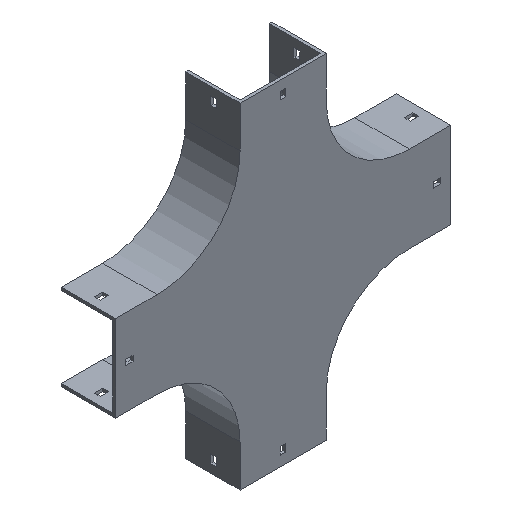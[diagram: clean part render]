
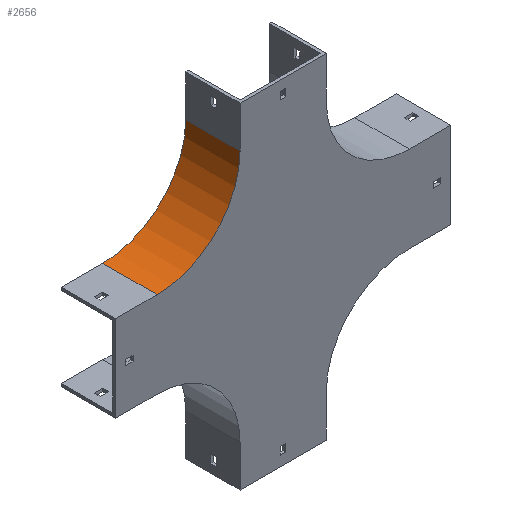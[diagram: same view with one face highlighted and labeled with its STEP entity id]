
A CAD part, isometric view. The second image highlights one B-rep face of the part: STEP entity #2656.
In plain terms, the highlighted cylindrical face has radius 100 mm (diameter 200 mm), a partial arc.
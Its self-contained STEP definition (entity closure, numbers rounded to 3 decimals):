
#80 = DIRECTION ( 'NONE',  ( 0., -1., 0. ) ) ;
#109 = EDGE_CURVE ( 'NONE', #1404, #2427, #1007, .T. ) ;
#209 = CIRCLE ( 'NONE', #1920, 100. ) ;
#226 = CARTESIAN_POINT ( 'NONE',  ( -204., 0., 0. ) ) ;
#247 = ORIENTED_EDGE ( 'NONE', *, *, #109, .T. ) ;
#267 = CARTESIAN_POINT ( 'NONE',  ( -204., 65.5, 0. ) ) ;
#588 = VERTEX_POINT ( 'NONE', #1965 ) ;
#594 = CARTESIAN_POINT ( 'NONE',  ( -304., 65.5, -100. ) ) ;
#595 = EDGE_CURVE ( 'NONE', #588, #2560, #1976, .T. ) ;
#722 = CARTESIAN_POINT ( 'NONE',  ( -304., 65.5, -100. ) ) ;
#779 = DIRECTION ( 'NONE',  ( 0., 0., 1. ) ) ;
#798 = EDGE_CURVE ( 'NONE', #1404, #588, #1174, .T. ) ;
#898 = DIRECTION ( 'NONE',  ( 0., -1., 0. ) ) ;
#1007 = LINE ( 'NONE', #594, #1350 ) ;
#1063 = ORIENTED_EDGE ( 'NONE', *, *, #798, .F. ) ;
#1102 = CARTESIAN_POINT ( 'NONE',  ( -304., 65.5, 0. ) ) ;
#1135 = FACE_OUTER_BOUND ( 'NONE', #2618, .T. ) ;
#1174 = CIRCLE ( 'NONE', #2433, 100. ) ;
#1202 = DIRECTION ( 'NONE',  ( 0., -1., 0. ) ) ;
#1272 = ORIENTED_EDGE ( 'NONE', *, *, #2377, .T. ) ;
#1306 = ORIENTED_EDGE ( 'NONE', *, *, #595, .F. ) ;
#1334 = CYLINDRICAL_SURFACE ( 'NONE', #2367, 100. ) ;
#1350 = VECTOR ( 'NONE', #2302, 1000. ) ;
#1404 = VERTEX_POINT ( 'NONE', #722 ) ;
#1495 = DIRECTION ( 'NONE',  ( 0., -1., 0. ) ) ;
#1710 = CARTESIAN_POINT ( 'NONE',  ( -304., 0., -100. ) ) ;
#1781 = DIRECTION ( 'NONE',  ( 0., 0., -1. ) ) ;
#1920 = AXIS2_PLACEMENT_3D ( 'NONE', #2663, #1202, #779 ) ;
#1959 = DIRECTION ( 'NONE',  ( 0., 0., 1. ) ) ;
#1965 = CARTESIAN_POINT ( 'NONE',  ( -204., 65.5, 0. ) ) ;
#1976 = LINE ( 'NONE', #267, #2253 ) ;
#2253 = VECTOR ( 'NONE', #898, 1000. ) ;
#2302 = DIRECTION ( 'NONE',  ( 0., -1., 0. ) ) ;
#2367 = AXIS2_PLACEMENT_3D ( 'NONE', #2388, #80, #1781 ) ;
#2377 = EDGE_CURVE ( 'NONE', #2427, #2560, #209, .T. ) ;
#2388 = CARTESIAN_POINT ( 'NONE',  ( -304., 65.5, 0. ) ) ;
#2427 = VERTEX_POINT ( 'NONE', #1710 ) ;
#2433 = AXIS2_PLACEMENT_3D ( 'NONE', #1102, #1495, #1959 ) ;
#2560 = VERTEX_POINT ( 'NONE', #226 ) ;
#2618 = EDGE_LOOP ( 'NONE', ( #1272, #1306, #1063, #247 ) ) ;
#2656 = ADVANCED_FACE ( 'NONE', ( #1135 ), #1334, .F. ) ;
#2663 = CARTESIAN_POINT ( 'NONE',  ( -304., 0., 0. ) ) ;
